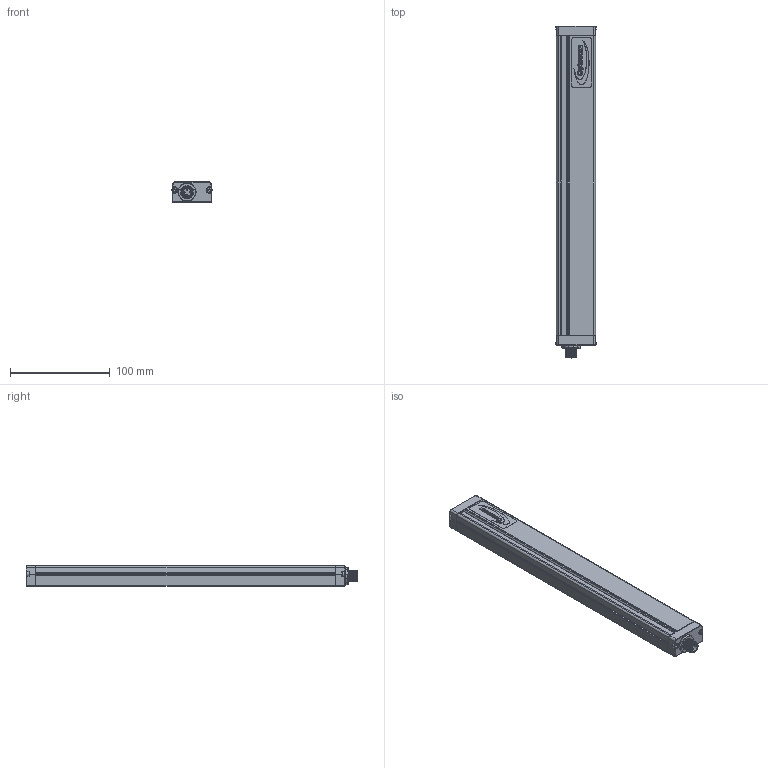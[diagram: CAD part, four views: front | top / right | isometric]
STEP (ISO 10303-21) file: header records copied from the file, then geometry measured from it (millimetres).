
FILE_DESCRIPTION(/* description */ (''),/* implementation_level */ '2;1');
FILE_NAME(/* name */ 'C:\Users\Andrea\SynologyDrive\Optoscan\Libreria Componenti\00 - Barriere\Barriera sorgente\Argo_300_TX.stp',/* time_stamp */ '2022-06-30T15:33:40+02:00',/* author */ ('Andrea'),/* organization */ (''),/* preprocessor_version */ 'ST-DEVELOPER v18.1',/* originating_system */ 'Autodesk Inventor 2022',/* authorisation */ '');
FILE_SCHEMA (('AUTOMOTIVE_DESIGN { 1 0 10303 214 3 1 1 }'));
Length unit declared in the file: millimetre
Products named in the file (1): Argo_300_TX
Bounding box: 40.5 x 332.8 x 20.75 mm (x, y, z)
Volume: 69593.9 mm3; surface area: 88056.9 mm2
Topology: 1 solids, 2 shells, 757 faces, 2033 edges, 1287 vertices
Faces by surface type: plane 338, cylinder 216, bspline 115, torus 74, cone 8, sphere 6
Full cylindrical faces by diameter (mm): 1 x12, 1.2 x4, 2.459 x4, 2.5 x4, 3 x4, 3.5 x4, 5.5 x4, 8 x1, 10 x1, 10.5 x2, 11.75 x8, 12 x1, 12.3 x3, 14.5 x1, 16.7 x1, 17.5 x1
Entity records: 30483 total; most frequent: CARTESIAN_POINT 11236, ORIENTED_EDGE 4050, DIRECTION 3531, EDGE_CURVE 2025, VERTEX_POINT 1287, AXIS2_PLACEMENT_3D 1230, LINE 1071, VECTOR 1071
